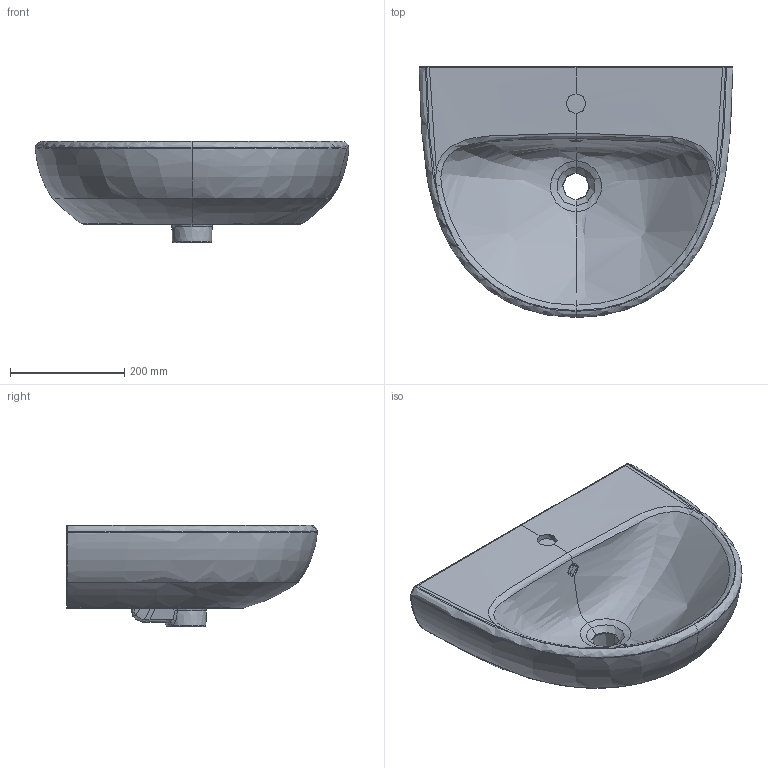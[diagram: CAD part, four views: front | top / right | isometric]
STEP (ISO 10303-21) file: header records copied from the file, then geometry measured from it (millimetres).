
FILE_DESCRIPTION(/* description */ (''),/* implementation_level */ '2;1');
FILE_NAME(/* name */ 'C:\Planerdaten\Export PLA\500.315.01.1\stp\500315.stp',/* time_stamp */ '2020-05-27T08:41:51+02:00',/* author */ ('JANAN'),/* organization */ (''),/* preprocessor_version */ 'ST-DEVELOPER v16.13',/* originating_system */ 'Autodesk Inventor 2018',/* authorisation */ '');
FILE_SCHEMA (('AUTOMOTIVE_DESIGN { 1 0 10303 214 3 1 1 }'));
Products named in the file (1): WT Ge+Snv B55 m/ÜLF m/HLo
Bounding box: 549.92 x 440.02 x 178.75 mm (x, y, z)
Volume: 16880208.3 mm3; surface area: 647957.8 mm2
Topology: 1 solids, 1 shells, 101 faces, 245 edges, 148 vertices
Faces by surface type: bspline 79, plane 15, cylinder 4, torus 2, cone 1
Full cylindrical faces by diameter (mm): 35 x1, 47 x1
Entity records: 31231 total; most frequent: CARTESIAN_POINT 29276, ORIENTED_EDGE 482, EDGE_CURVE 241, DIRECTION 211, VERTEX_POINT 147, B_SPLINE_CURVE_WITH_KNOTS 131, EDGE_LOOP 108, STYLED_ITEM 102
